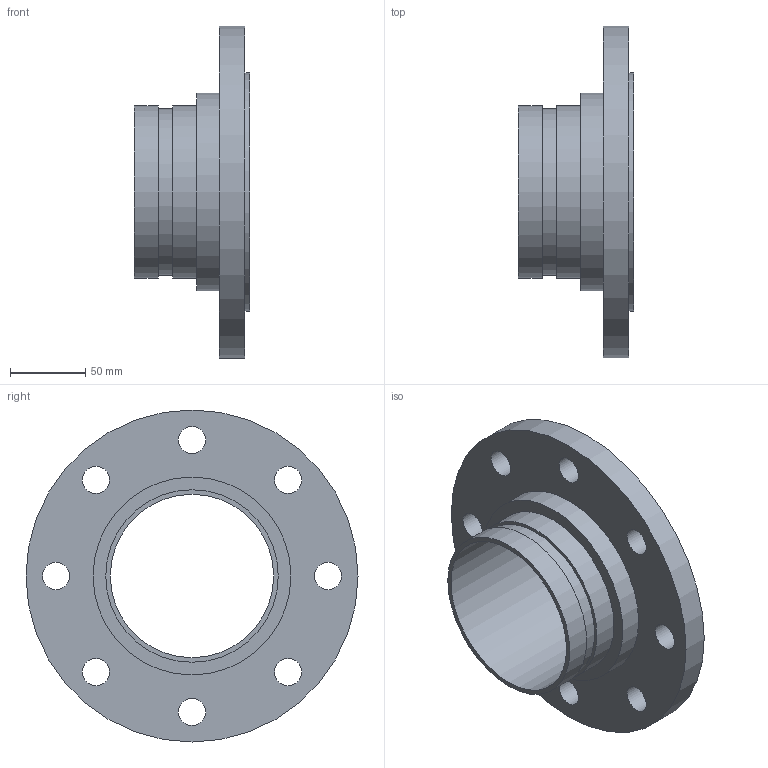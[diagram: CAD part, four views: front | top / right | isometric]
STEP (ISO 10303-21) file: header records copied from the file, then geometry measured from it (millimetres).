
FILE_DESCRIPTION(/* description */ ('VIC FLANGE ADAPTER STYLE 441N','CAx-IF Rec.Pracs.---Representation and Presentation of Product Manufacturing Information (PMI)---4.0---2014-10-13'),/* implementation_level */ '2;1');
FILE_NAME(/* name */ 'C:\Users\kkamble\AppData\Roaming\Autodesk\ApplicationPlugins\Back Up\Victaulic_SS-OGS_Flanged Adapter Nipple_PN10_Style 441N (OGSxFLG)\Victaulic_SS-OGS_Flanged Adapter Nipple_PN10_Style 441N (OGSxFLG)_4 (100).stp',/* time_stamp */ '2020-08-27T09:31:48+05:00',/* author */ ('jbrannon'),/* organization */ ('Victaulic'),/* preprocessor_version */ 'ST-DEVELOPER v17.2',/* originating_system */ 'Autodesk Inventor 2019',/* authorisation */ '');
FILE_SCHEMA (('AP242_MANAGED_MODEL_BASED_3D_ENGINEERING_MIM_LF { 1 0 10303 442 1 1 4 }'));
Length unit declared in the file: inch
Products named in the file (1): 441N-04.0
Bounding box: 76.2 x 219.96 x 219.96 mm (x, y, z)
Volume: 587472.1 mm3; surface area: 122705.4 mm2
Topology: 1 solids, 1 shells, 22 faces, 59 edges, 44 vertices
Faces by surface type: cylinder 15, plane 7
Full cylindrical faces by diameter (mm): 18.034 x8, 108.204 x1, 110.084 x1, 114.3 x2, 131.064 x1, 157.988 x1, 219.964 x1
Entity records: 929 total; most frequent: DIRECTION 175, CARTESIAN_POINT 143, ORIENTED_EDGE 118, AXIS2_PLACEMENT_3D 80, EDGE_CURVE 59, EDGE_LOOP 45, CIRCLE 44, VERTEX_POINT 44
